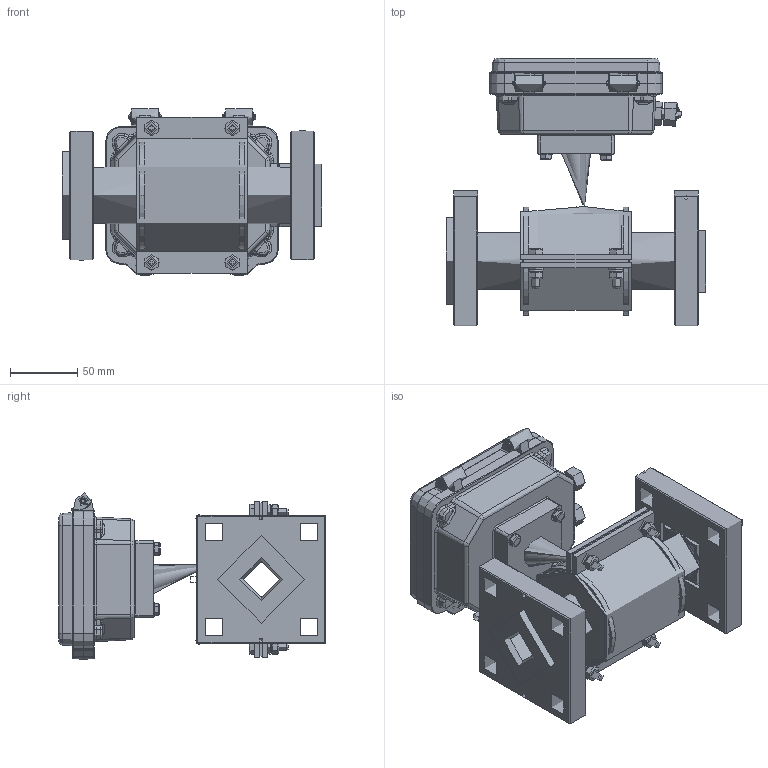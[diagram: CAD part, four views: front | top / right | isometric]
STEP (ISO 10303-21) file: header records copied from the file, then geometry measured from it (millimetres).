
FILE_DESCRIPTION(('STEP AP214'), '1');
FILE_NAME('Âçëåò ÝÐ ÏÐÎÔÈ DN32 Ôëàíåö', '', ('UNSPECIFIED'), ('UNSPECIFIED'), 'ASCON STEP Converter 1.6', 'ASCON Math Kernel', '');
FILE_SCHEMA(('AUTOMOTIVE_DESIGN { 1 0 10303 214 3 1 1}'));
Length unit declared in the file: millimetre
Products named in the file (1): 婽挭.407212.031-031.06
Bounding box: 193 x 198.33 x 123.45 mm (x, y, z)
Topology: 5 solids, 10 shells, 1279 faces, 3110 edges, 1886 vertices
Faces by surface type: plane 533, cylinder 398, cone 169, torus 139, bspline 38, sphere 2
Full cylindrical faces by diameter (mm): 0.8 x2, 2 x2, 3 x4, 3.242 x14, 3.3 x2, 3.7 x4, 4 x10, 4.134 x2, 5 x1, 5.5 x1, 6 x12, 6.3 x2, 6.4 x4, 7 x12, 7.5 x2, 8 x2, 10 x4, 11 x4, 12 x8, 12.5 x2, 16.5 x2, 18 x9, 19 x1, 20 x1, 21 x1, 25 x1, 27 x1, 30 x1, 41 x2, 42 x1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
Entity records: 66807 total; most frequent: CARTESIAN_POINT 22399, DIRECTION 6269, ORIENTED_EDGE 5586, EDGE_CURVE 2793, AXIS2_PLACEMENT_3D 2486, VERTEX_POINT 1856, EDGE_LOOP 1717, FACE_BOUND 1318
